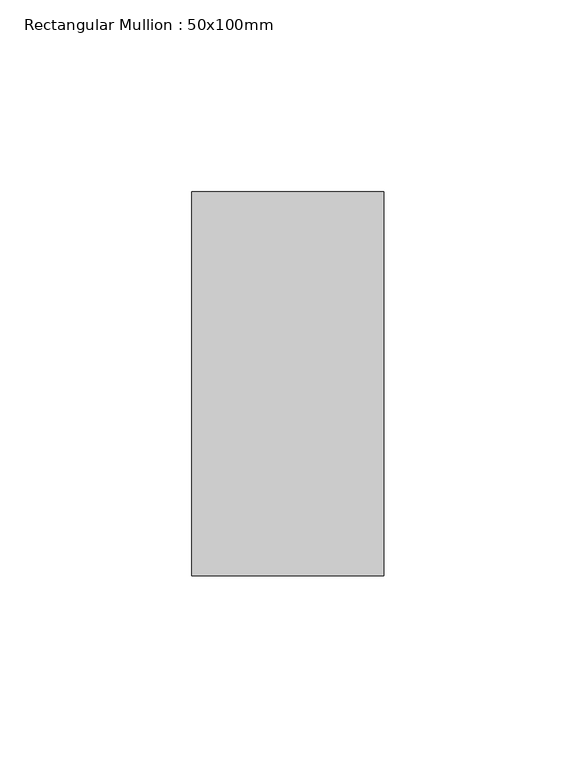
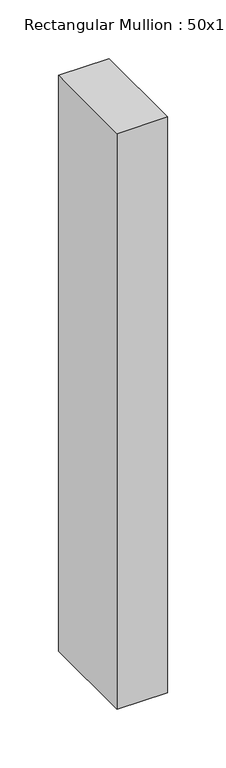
"""IFC4 building model written with IfcOpenShell, lengths in millimetres: member geometry, Rectangular Mullion : 50x100mm."""

import ifcopenshell
import ifcopenshell.guid

model = None  # the IFC model being written
_history = None  # IfcOwnerHistory: only IFC2X3 demands one
_inside = {}  # id of a spatial element -> (the spatial element, [elements in it])
_under = {}  # id of a project, library or spatial element -> (it, [spatial elements below it])
_declared = {}  # id of a project -> (the project, [libraries it declares])
_typed = {}  # id of a type object -> (the type object, [elements of that type])
_made_of = {}  # id of a material, layer set ... -> (it, [elements and type objects made of it])


def new_model(schema):
    """Start an empty IFC model of exactly this schema.

    Asked for "IFC4X3", IfcOpenShell would pick the latest addendum, in which some entities
    have other attributes; the version numbers below select the first issue.
    IFC2X3 requires an IfcOwnerHistory on every rooted entity: one is made here for all.
    """
    global model, _history
    if schema == "IFC4X3":
        model = ifcopenshell.file(schema_version=(4, 3, 0, 0))
    else:
        model = ifcopenshell.file(schema=schema)
    _inside.clear()
    _under.clear()
    _declared.clear()
    _typed.clear()
    _made_of.clear()
    _history = None
    if model.schema == "IFC2X3":
        org = make("IfcOrganization", Name="unknown")
        user = make(
            "IfcPersonAndOrganization",
            ThePerson=make("IfcPerson", FamilyName="unknown"),
            TheOrganization=org,
        )
        app = make(
            "IfcApplication",
            ApplicationDeveloper=org,
            Version="unknown",
            ApplicationFullName="unknown",
            ApplicationIdentifier="unknown",
        )
        _history = make(
            "IfcOwnerHistory",
            OwningUser=user,
            OwningApplication=app,
            ChangeAction="ADDED",
            CreationDate=0,
        )
    return model


def make(cls, **values):
    """One entity of the class cls with the attributes given. An attribute that is None is left unset."""
    return model.create_entity(
        cls, **{name: value for name, value in values.items() if value is not None}
    )


def rooted(cls, **values):
    """An entity with a GlobalId (a new one), such as an element, a storey or a relation."""
    return make(cls, GlobalId=ifcopenshell.guid.new(), OwnerHistory=_history, **values)


def si_unit(unit_type, name, prefix=None):
    """IfcSIUnit, for example si_unit("LENGTHUNIT", "METRE", prefix="MILLI")."""
    return make("IfcSIUnit", UnitType=unit_type, Prefix=prefix, Name=name)


def assignment(units):
    """IfcUnitAssignment: the units of a project."""
    return None if units is None else make("IfcUnitAssignment", Units=units)


def point(xyz):
    """IfcCartesianPoint."""
    return None if xyz is None else make("IfcCartesianPoint", Coordinates=xyz)


def direction(xyz):
    """IfcDirection."""
    return None if xyz is None else make("IfcDirection", DirectionRatios=xyz)


def frame(location, z_axis=None, x_axis=None):
    """IfcAxis2Placement3D, a coordinate frame: its origin and axes. An axis left out is left unset."""
    return make(
        "IfcAxis2Placement3D",
        Location=point(location),
        Axis=direction(z_axis),
        RefDirection=direction(x_axis),
    )


def origin():
    """The frame at (0, 0, 0) with its axes left unset."""
    return frame((0.0, 0.0, 0.0))


def place(relative_to, where):
    """IfcLocalPlacement: puts the frame where relative to a parent placement (None: the world)."""
    return make(
        "IfcLocalPlacement", PlacementRelTo=relative_to, RelativePlacement=where
    )


def context(
    kind, dimensions, precision=None, world=None, true_north=None, identifier=None
):
    """IfcGeometricRepresentationContext, for example the 3D "Model" context."""
    return make(
        "IfcGeometricRepresentationContext",
        ContextIdentifier=identifier,
        ContextType=kind,
        CoordinateSpaceDimension=dimensions,
        Precision=precision,
        WorldCoordinateSystem=world,
        TrueNorth=true_north,
    )


def project(units=None, contexts=None):
    """IfcProject with its units and contexts."""
    return rooted(
        "IfcProject",
        Name="project",
        RepresentationContexts=contexts,
        UnitsInContext=assignment(units),
    )


def spatial(cls, under=None, at=None, **own):
    """A site, building, storey or space (cls), placed at a placement, below another one or the project."""
    s = rooted(cls, ObjectPlacement=at, **own)
    if under is not None:
        _under.setdefault(under.id(), (under, []))[1].append(s)
    return s


def polyline(points):
    """IfcPolyline through the points."""
    return make("IfcPolyline", Points=[point(p) for p in points])


def outline(outer, holes=None, kind="AREA"):
    """IfcArbitraryClosedProfileDef: a profile drawn as a closed curve; with holes, ...WithVoids."""
    if holes is None:
        return make("IfcArbitraryClosedProfileDef", ProfileType=kind, OuterCurve=outer)
    return make(
        "IfcArbitraryProfileDefWithVoids",
        ProfileType=kind,
        OuterCurve=outer,
        InnerCurves=holes,
    )


def extrude(swept, where, along, depth):
    """IfcExtrudedAreaSolid: the profile swept, set in the frame where, extruded along a direction by depth."""
    return make(
        "IfcExtrudedAreaSolid",
        SweptArea=swept,
        Position=where,
        ExtrudedDirection=direction(along),
        Depth=depth,
    )


def shape(context_of_items, identifier, shape_type, items):
    """IfcShapeRepresentation: the items that make up one representation, for example the "Body"."""
    return make(
        "IfcShapeRepresentation",
        ContextOfItems=context_of_items,
        RepresentationIdentifier=identifier,
        RepresentationType=shape_type,
        Items=items,
    )


def source(mapping_origin, context_of_items, identifier, shape_type, items):
    """IfcRepresentationMap: a shape defined once, which mapped items show again and again."""
    return make(
        "IfcRepresentationMap",
        MappingOrigin=mapping_origin,
        MappedRepresentation=shape(context_of_items, identifier, shape_type, items),
    )


def transform(
    local_origin,
    x_axis=None,
    y_axis=None,
    z_axis=None,
    scale=None,
    scale2=None,
    scale3=None,
    uniform=True,
):
    """IfcCartesianTransformationOperator3D, or its non-uniform kind. x_axis, y_axis, z_axis: its Axis1, 2, 3."""
    if uniform:
        return make(
            "IfcCartesianTransformationOperator3D",
            Axis1=direction(x_axis),
            Axis2=direction(y_axis),
            LocalOrigin=point(local_origin),
            Scale=scale,
            Axis3=direction(z_axis),
        )
    return make(
        "IfcCartesianTransformationOperator3DnonUniform",
        Axis1=direction(x_axis),
        Axis2=direction(y_axis),
        LocalOrigin=point(local_origin),
        Scale=scale,
        Axis3=direction(z_axis),
        Scale2=scale2,
        Scale3=scale3,
    )


def mapped(mapping_source, mapping_target):
    """IfcMappedItem: shows the shape of a source again, moved by a transform."""
    return make(
        "IfcMappedItem", MappingSource=mapping_source, MappingTarget=mapping_target
    )


def made_of(thing, what):
    """Note that an element or type object is made of a material, layer set ...; save() writes the relation."""
    if what is not None:
        _made_of.setdefault(what.id(), (what, []))[1].append(thing)
    return thing


def element(
    cls,
    number,
    at=None,
    inside=None,
    cuts=None,
    type_object=None,
    material=None,
    context=None,
    identifier="Body",
    shape_type=None,
    held_by="IfcProductDefinitionShape",
    body=None,
    shapes=None,
    **own,
):
    """One element of the class cls, such as IfcWall. Its Tag is "e" and its number.

    at: its placement. inside: the storey or other place that contains it. cuts: it is an
    opening in that element (IfcRelVoidsElement). A single representation is given by context,
    identifier, shape_type and body (its items); several are given by shapes. held_by: the class
    of the entity that holds the representations. save() writes the other relations.
    """
    e = rooted(cls, Tag="e%d" % number, ObjectPlacement=at, **own)
    if body is not None:
        shapes = [shape(context, identifier, shape_type, body)]
    if shapes is not None:
        e.Representation = make(held_by, Representations=shapes)
    if inside is not None:
        _inside.setdefault(inside.id(), (inside, []))[1].append(e)
    if cuts is not None:
        rooted(
            "IfcRelVoidsElement", RelatingBuildingElement=cuts, RelatedOpeningElement=e
        )
    if type_object is not None:
        _typed.setdefault(type_object.id(), (type_object, []))[1].append(e)
    return made_of(e, material)


def aggregate(whole, parts):
    """IfcRelAggregates: a whole, such as a stair, and the parts it consists of."""
    return rooted("IfcRelAggregates", RelatingObject=whole, RelatedObjects=parts)


def save(model, path):
    """Write the relations noted so far, then the file.

    IfcRelAggregates (storeys below a building ...), IfcRelContainedInSpatialStructure (elements
    in a storey), IfcRelDefinesByType, IfcRelAssociatesMaterial and IfcRelDeclares: one each for
    every whole, place, type object, material and project.
    """
    for whole, parts in _under.values():
        aggregate(whole, parts)
    for where, things in _inside.values():
        rooted(
            "IfcRelContainedInSpatialStructure",
            RelatedElements=things,
            RelatingStructure=where,
        )
    for kind, things in _typed.values():
        rooted("IfcRelDefinesByType", RelatedObjects=things, RelatingType=kind)
    for what, things in _made_of.values():
        rooted("IfcRelAssociatesMaterial", RelatedObjects=things, RelatingMaterial=what)
    for by, libraries in _declared.values():
        rooted("IfcRelDeclares", RelatingContext=by, RelatedDefinitions=libraries)
    model.write(path)


def rectangular_mullion_50x100mm_059e7456(model_context):
    return source(origin(), model_context, "Body", "SweptSolid", [
        extrude(outline(polyline([(0.0, 50.0), (0.0, -50.0), (-50.0, -50.0), (-50.0, 50.0), (0.0, 50.0)])), frame((0.0, 0.0, -600.0), z_axis=(0.0, 0.0, 1.0), x_axis=(1.0, 0.0, 0.0)), (0.0, 0.0, 1.0), 600.0),
    ])


if __name__ == "__main__":
    model = new_model("IFC4")
    model_context = context("Model", 3, world=origin())
    ifc_project = project(units=[si_unit("LENGTHUNIT", "METRE", prefix="MILLI")], contexts=[model_context])
    site = spatial("IfcSite", under=ifc_project)
    building = spatial("IfcBuilding", under=site)
    placement = place(None, origin())
    rectangular_mullion_50x100mm_shape = rectangular_mullion_50x100mm_059e7456(model_context)
    element("IfcMember", 1, ObjectType="Rectangular Mullion : 50x100mm", at=placement, inside=building, context=model_context, shape_type="MappedRepresentation", body=[
        mapped(rectangular_mullion_50x100mm_shape, transform((0.0, 0.0, 0.0), x_axis=(1.0, 0.0, 0.0), y_axis=(0.0, 1.0, 0.0), z_axis=(0.0, 0.0, 1.0))),
    ])
    save(model, "model.ifc")
